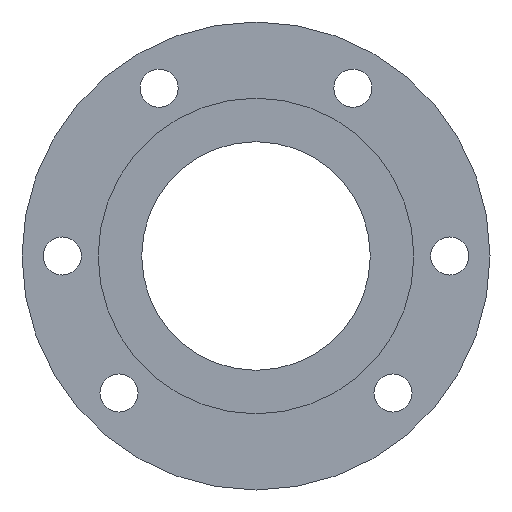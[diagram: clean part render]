
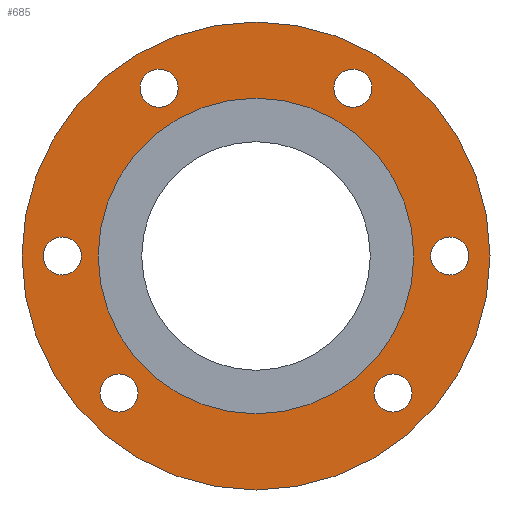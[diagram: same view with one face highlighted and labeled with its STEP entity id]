
A CAD part, left-side view. The second image highlights one B-rep face of the part: STEP entity #685.
In plain terms, the highlighted planar face has unit normal (-1, 0, 0).
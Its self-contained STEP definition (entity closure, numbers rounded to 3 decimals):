
#355=CARTESIAN_POINT('',(-19.0,0.0,-107.5));
#356=VERTEX_POINT('',#355);
#357=CARTESIAN_POINT('',(-19.0,0.0,0.0));
#358=DIRECTION('',(1.0,0.0,0.0));
#359=DIRECTION('',(0.0,0.0,-1.0));
#360=AXIS2_PLACEMENT_3D('',#357,#358,#359);
#361=CIRCLE('',#360,107.5);
#362=EDGE_CURVE('',#356,#356,#361,.T.);
#396=CARTESIAN_POINT('',(-19.,-89.0,8.75));
#397=VERTEX_POINT('',#396);
#398=CARTESIAN_POINT('',(-19.,-89.0,0.0));
#399=DIRECTION('',(1.0,0.0,0.0));
#400=DIRECTION('',(0.0,0.0,-1.0));
#401=AXIS2_PLACEMENT_3D('',#398,#399,#400);
#402=CIRCLE('',#401,8.75);
#403=EDGE_CURVE('',#397,#397,#402,.T.);
#437=CARTESIAN_POINT('',(-19.,89.0,8.75));
#438=VERTEX_POINT('',#437);
#439=CARTESIAN_POINT('',(-19.,89.0,0.0));
#440=DIRECTION('',(1.0,0.0,0.0));
#441=DIRECTION('',(0.0,0.0,-1.0));
#442=AXIS2_PLACEMENT_3D('',#439,#440,#441);
#443=CIRCLE('',#442,8.75);
#444=EDGE_CURVE('',#438,#438,#443,.T.);
#478=CARTESIAN_POINT('',(-19.,-62.933,-54.183));
#479=VERTEX_POINT('',#478);
#480=CARTESIAN_POINT('',(-19.,-62.933,-62.933));
#481=DIRECTION('',(1.0,0.0,0.0));
#482=DIRECTION('',(0.0,0.0,-1.0));
#483=AXIS2_PLACEMENT_3D('',#480,#481,#482);
#484=CIRCLE('',#483,8.75);
#485=EDGE_CURVE('',#479,#479,#484,.T.);
#519=CARTESIAN_POINT('',(-19.,62.933,-54.183));
#520=VERTEX_POINT('',#519);
#521=CARTESIAN_POINT('',(-19.,62.933,-62.933));
#522=DIRECTION('',(1.0,0.0,0.0));
#523=DIRECTION('',(0.0,0.0,-1.0));
#524=AXIS2_PLACEMENT_3D('',#521,#522,#523);
#525=CIRCLE('',#524,8.75);
#526=EDGE_CURVE('',#520,#520,#525,.T.);
#560=CARTESIAN_POINT('',(-19.,44.5,85.826));
#561=VERTEX_POINT('',#560);
#562=CARTESIAN_POINT('',(-19.,44.5,77.076));
#563=DIRECTION('',(1.0,0.0,0.0));
#564=DIRECTION('',(0.0,0.0,-1.0));
#565=AXIS2_PLACEMENT_3D('',#562,#563,#564);
#566=CIRCLE('',#565,8.75);
#567=EDGE_CURVE('',#561,#561,#566,.T.);
#601=CARTESIAN_POINT('',(-19.,-44.5,85.826));
#602=VERTEX_POINT('',#601);
#603=CARTESIAN_POINT('',(-19.,-44.5,77.076));
#604=DIRECTION('',(1.0,0.0,0.0));
#605=DIRECTION('',(0.0,0.0,-1.0));
#606=AXIS2_PLACEMENT_3D('',#603,#604,#605);
#607=CIRCLE('',#606,8.75);
#608=EDGE_CURVE('',#602,#602,#607,.T.);
#641=CARTESIAN_POINT('',(-19.,0.0,-72.5));
#642=VERTEX_POINT('',#641);
#643=CARTESIAN_POINT('',(-19.,0.0,0.0));
#644=DIRECTION('',(1.0,0.0,0.0));
#645=DIRECTION('',(0.0,0.0,-1.0));
#646=AXIS2_PLACEMENT_3D('',#643,#644,#645);
#647=CIRCLE('',#646,72.5);
#648=EDGE_CURVE('',#642,#642,#647,.T.);
#656=CARTESIAN_POINT('',(-19.,0.0,-90.0));
#657=DIRECTION('',(-1.0,0.0,0.0));
#658=DIRECTION('',(0.0,0.0,1.0));
#659=AXIS2_PLACEMENT_3D('',#656,#657,#658);
#660=PLANE('',#659);
#661=ORIENTED_EDGE('',*,*,#362,.F.);
#662=EDGE_LOOP('',(#661));
#663=FACE_OUTER_BOUND('',#662,.T.);
#664=ORIENTED_EDGE('',*,*,#403,.T.);
#665=EDGE_LOOP('',(#664));
#666=FACE_BOUND('',#665,.T.);
#667=ORIENTED_EDGE('',*,*,#444,.T.);
#668=EDGE_LOOP('',(#667));
#669=FACE_BOUND('',#668,.T.);
#670=ORIENTED_EDGE('',*,*,#485,.T.);
#671=EDGE_LOOP('',(#670));
#672=FACE_BOUND('',#671,.T.);
#673=ORIENTED_EDGE('',*,*,#526,.T.);
#674=EDGE_LOOP('',(#673));
#675=FACE_BOUND('',#674,.T.);
#676=ORIENTED_EDGE('',*,*,#567,.T.);
#677=EDGE_LOOP('',(#676));
#678=FACE_BOUND('',#677,.T.);
#679=ORIENTED_EDGE('',*,*,#608,.T.);
#680=EDGE_LOOP('',(#679));
#681=FACE_BOUND('',#680,.T.);
#682=ORIENTED_EDGE('',*,*,#648,.T.);
#683=EDGE_LOOP('',(#682));
#684=FACE_BOUND('',#683,.T.);
#685=ADVANCED_FACE('',(#663,#666,#669,#672,#675,#678,#681,#684),#660,.T.);
